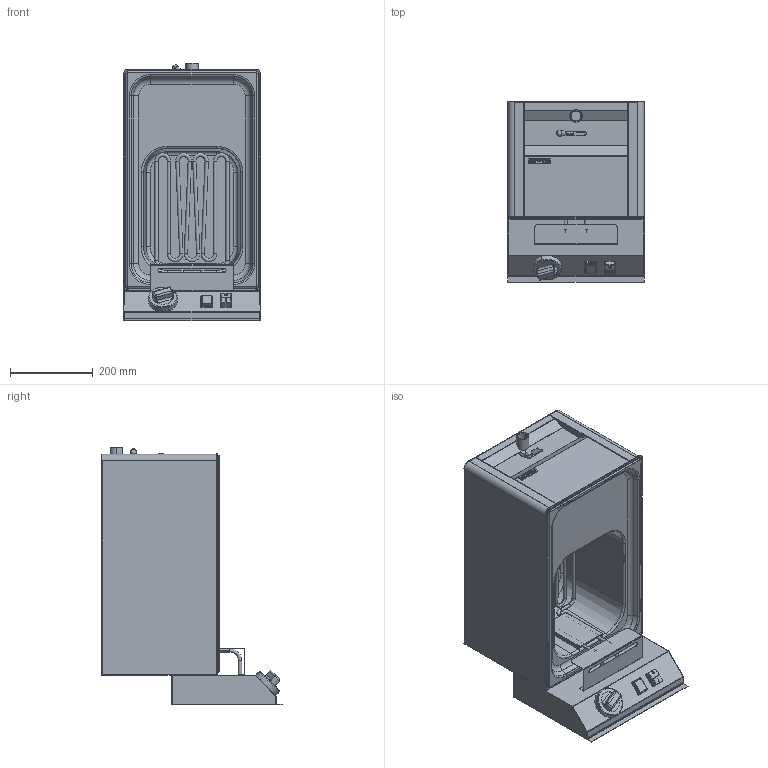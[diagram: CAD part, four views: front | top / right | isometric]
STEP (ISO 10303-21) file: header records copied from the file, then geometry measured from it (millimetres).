
FILE_DESCRIPTION (( 'STEP AP214' ), '1' );
FILE_NAME ('pres-C6FEV833.STEP', '2025-03-26T14:42:08', ( '' ), ( '' ), 'SwSTEP 2.0', 'SolidWorks 2025', '' );
FILE_SCHEMA (( 'AUTOMOTIVE_DESIGN' ));
Length unit declared in the file: millimetre
Products named in the file (1): pres-C6FEV833
Bounding box: 330 x 437 x 624 mm (x, y, z)
Volume: 1954677.7 mm3; surface area: 2783320.1 mm2
Topology: 22 solids, 22 shells, 971 faces, 2242 edges, 1313 vertices
Faces by surface type: plane 519, cylinder 281, torus 102, bspline 39, cone 16, sphere 14
Entity records: 30553 total; most frequent: CARTESIAN_POINT 6780, DIRECTION 4714, ORIENTED_EDGE 4440, EDGE_CURVE 2220, AXIS2_PLACEMENT_3D 1661, LINE 1392, VECTOR 1392, VERTEX_POINT 1311
